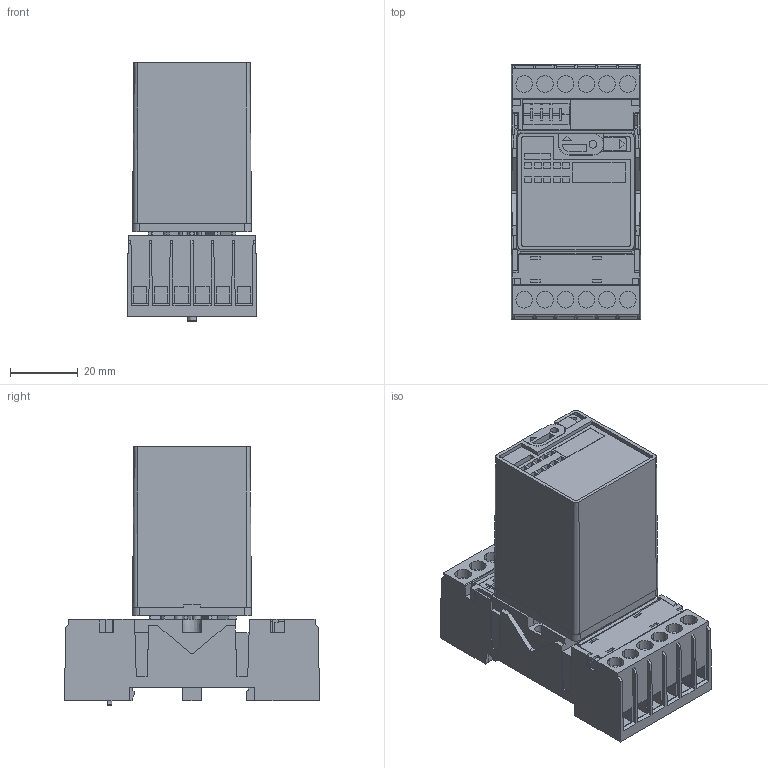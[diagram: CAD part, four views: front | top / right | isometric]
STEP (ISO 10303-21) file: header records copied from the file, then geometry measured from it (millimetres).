
FILE_DESCRIPTION (( 'STEP AP214' ), '1' );
FILE_NAME ('C31xR_C32xR_plus_S3-M1R.STEP', '2024-04-04T09:18:46', ( '' ), ( '' ), 'SwSTEP 2.0', 'SolidWorks 2022', '' );
FILE_SCHEMA (( 'AUTOMOTIVE_DESIGN' ));
Length unit declared in the file: millimetre
Products named in the file (1): C31xR_C32xR_plus_S3-M1R
Bounding box: 38 x 75 x 76 mm (x, y, z)
Volume: 111591.8 mm3; surface area: 30980.8 mm2
Topology: 1 solids, 31 shells, 1202 faces, 3234 edges, 2128 vertices
Faces by surface type: plane 967, cylinder 180, cone 50, bspline 5
Entity records: 39953 total; most frequent: CARTESIAN_POINT 7596, ORIENTED_EDGE 6466, DIRECTION 5784, EDGE_CURVE 3233, VECTOR 2552, LINE 2552, VERTEX_POINT 2128, AXIS2_PLACEMENT_3D 1616
